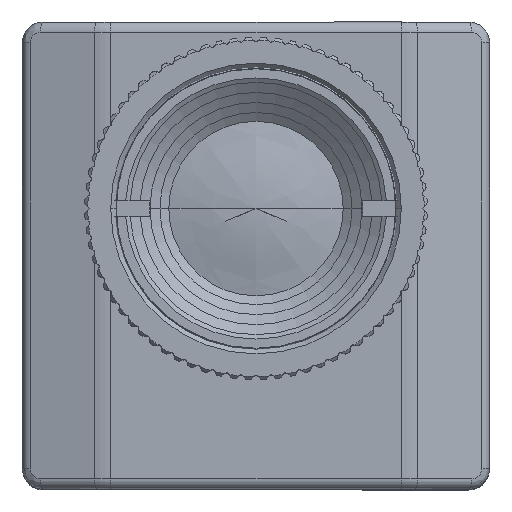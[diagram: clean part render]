
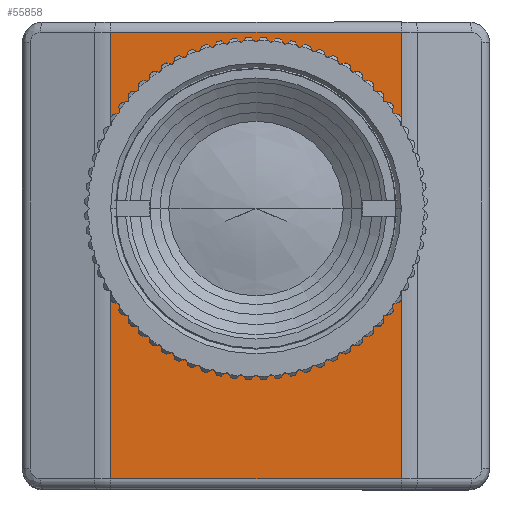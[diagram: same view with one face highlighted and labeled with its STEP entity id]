
A CAD part, top view. The second image highlights one B-rep face of the part: STEP entity #55858.
In plain terms, the highlighted planar face has unit normal (0, 0, 1).
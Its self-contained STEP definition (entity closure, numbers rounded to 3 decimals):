
#504 = CIRCLE ( 'NONE', #60887, 13.55 ) ;
#3364 = CARTESIAN_POINT ( 'NONE',  ( -14., 18.001, 0. ) ) ;
#4763 = EDGE_LOOP ( 'NONE', ( #29816, #8501 ) ) ;
#6288 = VERTEX_POINT ( 'NONE', #43699 ) ;
#6801 = DIRECTION ( 'NONE',  ( 0., 1., 0. ) ) ;
#8501 = ORIENTED_EDGE ( 'NONE', *, *, #38871, .T. ) ;
#9669 = VERTEX_POINT ( 'NONE', #37481 ) ;
#9978 = ORIENTED_EDGE ( 'NONE', *, *, #62299, .F. ) ;
#11249 = DIRECTION ( 'NONE',  ( -1., 0., 0. ) ) ;
#11889 = CARTESIAN_POINT ( 'NONE',  ( -13.55, 0., 0. ) ) ;
#12100 = LINE ( 'NONE', #3364, #54038 ) ;
#12548 = DIRECTION ( 'NONE',  ( 1., 0., 0. ) ) ;
#13142 = VECTOR ( 'NONE', #6801, 1000. ) ;
#14972 = CARTESIAN_POINT ( 'NONE',  ( 0., 0., 0. ) ) ;
#16690 = CARTESIAN_POINT ( 'NONE',  ( -20.5, 17., 0. ) ) ;
#17497 = EDGE_CURVE ( 'NONE', #25012, #6288, #58679, .T. ) ;
#18937 = VERTEX_POINT ( 'NONE', #43776 ) ;
#19456 = LINE ( 'NONE', #51428, #63192 ) ;
#20666 = CARTESIAN_POINT ( 'NONE',  ( 0., 0., 0. ) ) ;
#20691 = DIRECTION ( 'NONE',  ( 1., 0., 0. ) ) ;
#25012 = VERTEX_POINT ( 'NONE', #72006 ) ;
#26276 = DIRECTION ( 'NONE',  ( 0., 1., 0. ) ) ;
#26385 = VERTEX_POINT ( 'NONE', #11889 ) ;
#26416 = DIRECTION ( 'NONE',  ( 1., 0., 0. ) ) ;
#26850 = CARTESIAN_POINT ( 'NONE',  ( -14., 17., 0. ) ) ;
#29816 = ORIENTED_EDGE ( 'NONE', *, *, #69598, .T. ) ;
#33535 = AXIS2_PLACEMENT_3D ( 'NONE', #35282, #46774, #12548 ) ;
#35282 = CARTESIAN_POINT ( 'NONE',  ( -20.5, 16., 0. ) ) ;
#36562 = ORIENTED_EDGE ( 'NONE', *, *, #73138, .T. ) ;
#37481 = CARTESIAN_POINT ( 'NONE',  ( 13.55, 0., 0. ) ) ;
#38815 = FACE_OUTER_BOUND ( 'NONE', #69049, .T. ) ;
#38871 = EDGE_CURVE ( 'NONE', #26385, #9669, #504, .T. ) ;
#43699 = CARTESIAN_POINT ( 'NONE',  ( 14., 17., 0. ) ) ;
#43702 = CIRCLE ( 'NONE', #69101, 13.55 ) ;
#43776 = CARTESIAN_POINT ( 'NONE',  ( -14., -26., 0. ) ) ;
#46774 = DIRECTION ( 'NONE',  ( 0., 0., 1. ) ) ;
#47904 = VECTOR ( 'NONE', #11249, 1000. ) ;
#48327 = ORIENTED_EDGE ( 'NONE', *, *, #17497, .T. ) ;
#51428 = CARTESIAN_POINT ( 'NONE',  ( -20.5, -26., 0. ) ) ;
#51713 = EDGE_CURVE ( 'NONE', #18937, #25012, #19456, .T. ) ;
#52239 = PLANE ( 'NONE',  #33535 ) ;
#54038 = VECTOR ( 'NONE', #26276, 1000. ) ;
#54878 = DIRECTION ( 'NONE',  ( 0., 0., -1. ) ) ;
#55858 = ADVANCED_FACE ( 'NONE', ( #69083, #38815 ), #52239, .T. ) ;
#57107 = DIRECTION ( 'NONE',  ( 1., 0., 0. ) ) ;
#58137 = CARTESIAN_POINT ( 'NONE',  ( 14., -27.001, 0. ) ) ;
#58679 = LINE ( 'NONE', #58137, #13142 ) ;
#58966 = ORIENTED_EDGE ( 'NONE', *, *, #51713, .T. ) ;
#60572 = DIRECTION ( 'NONE',  ( 0., 0., -1. ) ) ;
#60887 = AXIS2_PLACEMENT_3D ( 'NONE', #20666, #60572, #26416 ) ;
#62299 = EDGE_CURVE ( 'NONE', #18937, #70160, #12100, .T. ) ;
#62992 = LINE ( 'NONE', #16690, #47904 ) ;
#63192 = VECTOR ( 'NONE', #57107, 1000. ) ;
#69049 = EDGE_LOOP ( 'NONE', ( #48327, #36562, #9978, #58966 ) ) ;
#69083 = FACE_BOUND ( 'NONE', #4763, .T. ) ;
#69101 = AXIS2_PLACEMENT_3D ( 'NONE', #14972, #54878, #20691 ) ;
#69598 = EDGE_CURVE ( 'NONE', #9669, #26385, #43702, .T. ) ;
#70160 = VERTEX_POINT ( 'NONE', #26850 ) ;
#72006 = CARTESIAN_POINT ( 'NONE',  ( 14., -26., 0. ) ) ;
#73138 = EDGE_CURVE ( 'NONE', #6288, #70160, #62992, .T. ) ;
